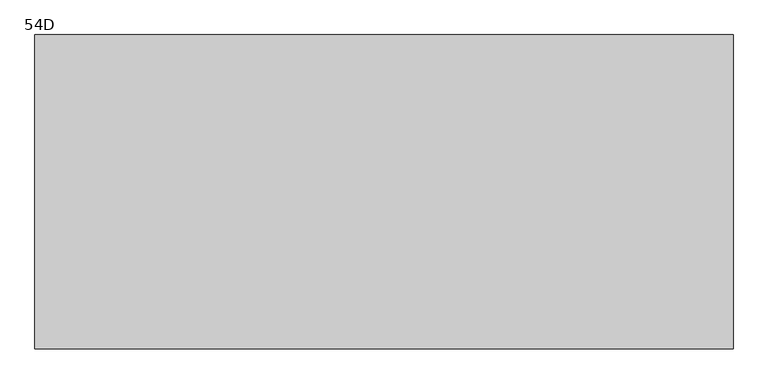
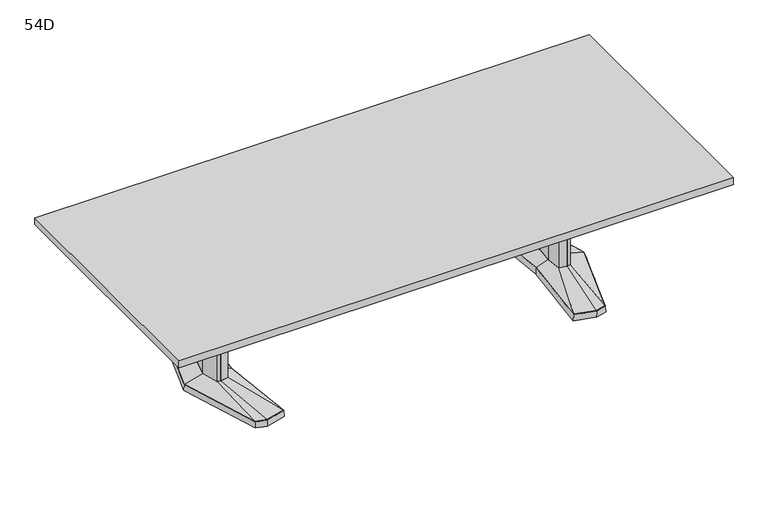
"""IFC4 building model written with IfcOpenShell, lengths in millimetres: furniture geometry, Coalesse_AM_Table_Conference_ETable2_Rectangular_10ft_AluminiumBase : 54D."""

import ifcopenshell
import ifcopenshell.guid

model = None  # the IFC model being written
_history = None  # IfcOwnerHistory: only IFC2X3 demands one
_inside = {}  # id of a spatial element -> (the spatial element, [elements in it])
_under = {}  # id of a project, library or spatial element -> (it, [spatial elements below it])
_declared = {}  # id of a project -> (the project, [libraries it declares])
_typed = {}  # id of a type object -> (the type object, [elements of that type])
_made_of = {}  # id of a material, layer set ... -> (it, [elements and type objects made of it])


def new_model(schema):
    """Start an empty IFC model of exactly this schema.

    Asked for "IFC4X3", IfcOpenShell would pick the latest addendum, in which some entities
    have other attributes; the version numbers below select the first issue.
    IFC2X3 requires an IfcOwnerHistory on every rooted entity: one is made here for all.
    """
    global model, _history
    if schema == "IFC4X3":
        model = ifcopenshell.file(schema_version=(4, 3, 0, 0))
    else:
        model = ifcopenshell.file(schema=schema)
    _inside.clear()
    _under.clear()
    _declared.clear()
    _typed.clear()
    _made_of.clear()
    _history = None
    if model.schema == "IFC2X3":
        org = make("IfcOrganization", Name="unknown")
        user = make(
            "IfcPersonAndOrganization",
            ThePerson=make("IfcPerson", FamilyName="unknown"),
            TheOrganization=org,
        )
        app = make(
            "IfcApplication",
            ApplicationDeveloper=org,
            Version="unknown",
            ApplicationFullName="unknown",
            ApplicationIdentifier="unknown",
        )
        _history = make(
            "IfcOwnerHistory",
            OwningUser=user,
            OwningApplication=app,
            ChangeAction="ADDED",
            CreationDate=0,
        )
    return model


def make(cls, **values):
    """One entity of the class cls with the attributes given. An attribute that is None is left unset."""
    return model.create_entity(
        cls, **{name: value for name, value in values.items() if value is not None}
    )


def rooted(cls, **values):
    """An entity with a GlobalId (a new one), such as an element, a storey or a relation."""
    return make(cls, GlobalId=ifcopenshell.guid.new(), OwnerHistory=_history, **values)


def si_unit(unit_type, name, prefix=None):
    """IfcSIUnit, for example si_unit("LENGTHUNIT", "METRE", prefix="MILLI")."""
    return make("IfcSIUnit", UnitType=unit_type, Prefix=prefix, Name=name)


def assignment(units):
    """IfcUnitAssignment: the units of a project."""
    return None if units is None else make("IfcUnitAssignment", Units=units)


def point(xyz):
    """IfcCartesianPoint."""
    return None if xyz is None else make("IfcCartesianPoint", Coordinates=xyz)


def direction(xyz):
    """IfcDirection."""
    return None if xyz is None else make("IfcDirection", DirectionRatios=xyz)


def frame(location, z_axis=None, x_axis=None):
    """IfcAxis2Placement3D, a coordinate frame: its origin and axes. An axis left out is left unset."""
    return make(
        "IfcAxis2Placement3D",
        Location=point(location),
        Axis=direction(z_axis),
        RefDirection=direction(x_axis),
    )


def origin():
    """The frame at (0, 0, 0) with its axes left unset."""
    return frame((0.0, 0.0, 0.0))


def place(relative_to, where):
    """IfcLocalPlacement: puts the frame where relative to a parent placement (None: the world)."""
    return make(
        "IfcLocalPlacement", PlacementRelTo=relative_to, RelativePlacement=where
    )


def context(
    kind, dimensions, precision=None, world=None, true_north=None, identifier=None
):
    """IfcGeometricRepresentationContext, for example the 3D "Model" context."""
    return make(
        "IfcGeometricRepresentationContext",
        ContextIdentifier=identifier,
        ContextType=kind,
        CoordinateSpaceDimension=dimensions,
        Precision=precision,
        WorldCoordinateSystem=world,
        TrueNorth=true_north,
    )


def project(units=None, contexts=None):
    """IfcProject with its units and contexts."""
    return rooted(
        "IfcProject",
        Name="project",
        RepresentationContexts=contexts,
        UnitsInContext=assignment(units),
    )


def spatial(cls, under=None, at=None, **own):
    """A site, building, storey or space (cls), placed at a placement, below another one or the project."""
    s = rooted(cls, ObjectPlacement=at, **own)
    if under is not None:
        _under.setdefault(under.id(), (under, []))[1].append(s)
    return s


def polyline(points):
    """IfcPolyline through the points."""
    return make("IfcPolyline", Points=[point(p) for p in points])


def outline(outer, holes=None, kind="AREA"):
    """IfcArbitraryClosedProfileDef: a profile drawn as a closed curve; with holes, ...WithVoids."""
    if holes is None:
        return make("IfcArbitraryClosedProfileDef", ProfileType=kind, OuterCurve=outer)
    return make(
        "IfcArbitraryProfileDefWithVoids",
        ProfileType=kind,
        OuterCurve=outer,
        InnerCurves=holes,
    )


def extrude(swept, where, along, depth):
    """IfcExtrudedAreaSolid: the profile swept, set in the frame where, extruded along a direction by depth."""
    return make(
        "IfcExtrudedAreaSolid",
        SweptArea=swept,
        Position=where,
        ExtrudedDirection=direction(along),
        Depth=depth,
    )


def faces_of(points, faces, orient=None, outer=None):
    """IfcFace entities. A face is a list of loops; a loop is a list of indices into points, from 0.

    orient and outer hold one flag for each loop. By default every Orientation is true, the
    first loop of a face is its IfcFaceOuterBound and the others are IfcFaceBound.
    """
    made = []
    for i, loops in enumerate(faces):
        bounds = []
        for j, loop in enumerate(loops):
            is_outer = j == 0 if outer is None else outer[i][j]
            bounds.append(
                make(
                    "IfcFaceOuterBound" if is_outer else "IfcFaceBound",
                    Bound=make("IfcPolyLoop", Polygon=[points[k] for k in loop]),
                    Orientation=True if orient is None else orient[i][j],
                )
            )
        made.append(make("IfcFace", Bounds=bounds))
    return made


def faceted_brep(points, faces, orient=None, outer=None, voids=None):
    """IfcFacetedBrep: a solid bounded by flat faces; with voids (closed shells), ...WithVoids."""
    shared = [point(p) for p in points]
    hull = make("IfcClosedShell", CfsFaces=faces_of(shared, faces, orient, outer))
    if voids is None:
        return make("IfcFacetedBrep", Outer=hull)
    return make(
        "IfcFacetedBrepWithVoids",
        Outer=hull,
        Voids=[
            make(cls, CfsFaces=faces_of(shared, fs, o, b)) for cls, fs, o, b in voids
        ],
    )


def shape(context_of_items, identifier, shape_type, items):
    """IfcShapeRepresentation: the items that make up one representation, for example the "Body"."""
    return make(
        "IfcShapeRepresentation",
        ContextOfItems=context_of_items,
        RepresentationIdentifier=identifier,
        RepresentationType=shape_type,
        Items=items,
    )


def source(mapping_origin, context_of_items, identifier, shape_type, items):
    """IfcRepresentationMap: a shape defined once, which mapped items show again and again."""
    return make(
        "IfcRepresentationMap",
        MappingOrigin=mapping_origin,
        MappedRepresentation=shape(context_of_items, identifier, shape_type, items),
    )


def transform(
    local_origin,
    x_axis=None,
    y_axis=None,
    z_axis=None,
    scale=None,
    scale2=None,
    scale3=None,
    uniform=True,
):
    """IfcCartesianTransformationOperator3D, or its non-uniform kind. x_axis, y_axis, z_axis: its Axis1, 2, 3."""
    if uniform:
        return make(
            "IfcCartesianTransformationOperator3D",
            Axis1=direction(x_axis),
            Axis2=direction(y_axis),
            LocalOrigin=point(local_origin),
            Scale=scale,
            Axis3=direction(z_axis),
        )
    return make(
        "IfcCartesianTransformationOperator3DnonUniform",
        Axis1=direction(x_axis),
        Axis2=direction(y_axis),
        LocalOrigin=point(local_origin),
        Scale=scale,
        Axis3=direction(z_axis),
        Scale2=scale2,
        Scale3=scale3,
    )


def mapped(mapping_source, mapping_target):
    """IfcMappedItem: shows the shape of a source again, moved by a transform."""
    return make(
        "IfcMappedItem", MappingSource=mapping_source, MappingTarget=mapping_target
    )


def made_of(thing, what):
    """Note that an element or type object is made of a material, layer set ...; save() writes the relation."""
    if what is not None:
        _made_of.setdefault(what.id(), (what, []))[1].append(thing)
    return thing


def element(
    cls,
    number,
    at=None,
    inside=None,
    cuts=None,
    type_object=None,
    material=None,
    context=None,
    identifier="Body",
    shape_type=None,
    held_by="IfcProductDefinitionShape",
    body=None,
    shapes=None,
    **own,
):
    """One element of the class cls, such as IfcWall. Its Tag is "e" and its number.

    at: its placement. inside: the storey or other place that contains it. cuts: it is an
    opening in that element (IfcRelVoidsElement). A single representation is given by context,
    identifier, shape_type and body (its items); several are given by shapes. held_by: the class
    of the entity that holds the representations. save() writes the other relations.
    """
    e = rooted(cls, Tag="e%d" % number, ObjectPlacement=at, **own)
    if body is not None:
        shapes = [shape(context, identifier, shape_type, body)]
    if shapes is not None:
        e.Representation = make(held_by, Representations=shapes)
    if inside is not None:
        _inside.setdefault(inside.id(), (inside, []))[1].append(e)
    if cuts is not None:
        rooted(
            "IfcRelVoidsElement", RelatingBuildingElement=cuts, RelatedOpeningElement=e
        )
    if type_object is not None:
        _typed.setdefault(type_object.id(), (type_object, []))[1].append(e)
    return made_of(e, material)


def aggregate(whole, parts):
    """IfcRelAggregates: a whole, such as a stair, and the parts it consists of."""
    return rooted("IfcRelAggregates", RelatingObject=whole, RelatedObjects=parts)


def save(model, path):
    """Write the relations noted so far, then the file.

    IfcRelAggregates (storeys below a building ...), IfcRelContainedInSpatialStructure (elements
    in a storey), IfcRelDefinesByType, IfcRelAssociatesMaterial and IfcRelDeclares: one each for
    every whole, place, type object, material and project.
    """
    for whole, parts in _under.values():
        aggregate(whole, parts)
    for where, things in _inside.values():
        rooted(
            "IfcRelContainedInSpatialStructure",
            RelatedElements=things,
            RelatingStructure=where,
        )
    for kind, things in _typed.values():
        rooted("IfcRelDefinesByType", RelatedObjects=things, RelatingType=kind)
    for what, things in _made_of.values():
        rooted("IfcRelAssociatesMaterial", RelatedObjects=things, RelatingMaterial=what)
    for by, libraries in _declared.values():
        rooted("IfcRelDeclares", RelatingContext=by, RelatedDefinitions=libraries)
    model.write(path)


def plane_surface(at):
    """IfcPlane: the flat surface through the origin of the frame at, square to its z axis."""
    return make("IfcPlane", Position=at)


def spline_surface(u_degree, v_degree, points, u_multiplicities, v_multiplicities, u_knots, v_knots, weights=None):
    """IfcBSplineSurfaceWithKnots; with weights, IfcRationalBSplineSurfaceWithKnots. points: one row for each step in u."""
    own = dict(
        UDegree=u_degree,
        VDegree=v_degree,
        ControlPointsList=[[point(p) for p in row] for row in points],
        SurfaceForm="UNSPECIFIED",
        UClosed=False,
        VClosed=False,
        SelfIntersect=False,
        UMultiplicities=u_multiplicities,
        VMultiplicities=v_multiplicities,
        UKnots=u_knots,
        VKnots=v_knots,
        KnotSpec="UNSPECIFIED",
    )
    if weights is None:
        return make("IfcBSplineSurfaceWithKnots", **own)
    return make("IfcRationalBSplineSurfaceWithKnots", WeightsData=weights, **own)


def advanced_brep(points, edges, surfaces, faces):
    """IfcAdvancedBrep: a solid bounded by faces that lie on surfaces and meet in shared edges.

    An edge is (start, end): straight between two places in points (the first is 0);
    or (start, end, curve); or (start, end, curve, False) where it runs against its curve.
    A face is (place in surfaces, loops), or (place, loops, False) where it looks against
    its surface's normal. A loop lists edges by number (the first is 1), with a minus sign
    where the edge is run from its end to its start. The first loop is the outer one.
    """
    corners = [point(p) for p in points]
    vertices = [make("IfcVertexPoint", VertexGeometry=c) for c in corners]
    made = []
    for start, end, *more in edges:
        made.append(
            make(
                "IfcEdgeCurve",
                EdgeStart=vertices[start],
                EdgeEnd=vertices[end],
                EdgeGeometry=more[0] if more else make("IfcPolyline", Points=[corners[start], corners[end]]),
                SameSense=more[1] if len(more) > 1 else True,
            )
        )
    hull = []
    for where, loops, *sense in faces:
        bounds = []
        for j, loop in enumerate(loops):
            ring = [make("IfcOrientedEdge", EdgeElement=made[abs(k) - 1], Orientation=k > 0) for k in loop]
            bounds.append(
                make(
                    "IfcFaceOuterBound" if j == 0 else "IfcFaceBound",
                    Bound=make("IfcEdgeLoop", EdgeList=ring),
                    Orientation=True,
                )
            )
        hull.append(make("IfcAdvancedFace", Bounds=bounds, FaceSurface=surfaces[where], SameSense=sense[0] if sense else True))
    return make("IfcAdvancedBrep", Outer=make("IfcClosedShell", CfsFaces=hull))


def furniture_54d_f35fd908(model_context):
    return source(origin(), model_context, "Body", "SolidModel", [
        faceted_brep([(905.8306835, 455.5848221, 38.1), (796.2531277, 426.2263816, 38.1), (837.4163717, 0.0, 38.1), (796.2531277, -426.2263816, 38.1), (905.8306835, -455.5848221, 38.1), (961.9570396, -440.5478297, 38.1), (1099.2684269, 0.0, 38.1), (961.9570396, 440.5478297, 38.1), (905.8306754, 457.2283104, 3.175), (963.2124472, 441.8549756, 3.175), (1100.93125, 0.0, 3.175), (963.2124472, -441.8549756, 3.175), (905.8306754, -457.2283104, 3.175), (794.54375, -427.4118891, 3.175), (835.8214856, 0.0, 3.175), (794.54375, 427.4118891, 3.175), (909.420115, 428.3273875, 3.175), (804.3718228, 402.1057253, 3.175), (812.490518, 377.985069, 3.175), (913.0095466, 401.0699529, 3.175), (963.5691725, 387.524361, 3.175), (962.7631061, 414.0360954, 3.175), (909.420115, -428.3273875, 3.175), (962.7631061, -414.0360954, 3.175), (963.5691725, -387.524361, 3.175), (913.0095466, -401.0699529, 3.175), (812.490518, -377.985069, 3.175), (804.3718228, -402.1057253, 3.175), (1036.0153621, 0.0, 3.175), (1003.7459611, 120.4193755, 3.175), (955.0987222, 133.471665, 3.175), (875.2180526, 119.4176561, 3.175), (864.0868466, 0.0, 3.175), (875.2180526, -119.4176561, 3.175), (955.0987222, -133.471665, 3.175), (1003.7459611, -120.4193755, 3.175), (909.420115, 428.3273875, 0.0), (962.7631061, 414.0360954, 0.0), (963.5691725, 387.524361, 0.0), (913.0095466, 401.0699529, 0.0), (812.490518, 377.985069, 0.0), (804.3718228, 402.1057253, 0.0), (909.420115, -428.3273875, 0.0), (804.3718228, -402.1057253, 0.0), (812.490518, -377.985069, 0.0), (913.0095466, -401.0699529, 0.0), (963.5691725, -387.524361, 0.0), (962.7631061, -414.0360954, 0.0), (1036.0153621, 0.0, 0.0), (1003.7459611, -120.4193755, 0.0), (955.0987222, -133.471665, 0.0), (875.2180526, -119.4176561, 0.0), (864.0868466, 0.0, 0.0), (875.2180526, 119.4176561, 0.0), (955.0987222, 133.471665, 0.0), (1003.7459611, 120.4193755, 0.0)], [[[0, 1, 2, 3, 4, 5, 6, 7]], [[8, 9, 10, 11, 12, 13, 14, 15], [16, 17, 18, 19, 20, 21], [22, 23, 24, 25, 26, 27], [28, 29, 30, 31, 32, 33, 34, 35]], [[7, 9, 8, 0]], [[6, 10, 9, 7]], [[5, 11, 10, 6]], [[4, 12, 11, 5]], [[3, 13, 12, 4]], [[2, 14, 13, 3]], [[1, 15, 14, 2]], [[0, 8, 15, 1]], [[36, 37, 38, 39, 40, 41]], [[42, 43, 44, 45, 46, 47]], [[48, 49, 50, 51, 52, 53, 54, 55]], [[36, 16, 21, 37]], [[37, 21, 20, 38]], [[38, 20, 19, 39]], [[39, 19, 18, 40]], [[40, 18, 17, 41]], [[41, 17, 16, 36]], [[42, 22, 27, 43]], [[43, 27, 26, 44]], [[44, 26, 25, 45]], [[45, 25, 24, 46]], [[46, 24, 23, 47]], [[47, 23, 22, 42]], [[48, 28, 35, 49]], [[49, 35, 34, 50]], [[50, 34, 33, 51]], [[51, 33, 32, 52]], [[52, 32, 31, 53]], [[53, 31, 30, 54]], [[54, 30, 29, 55]], [[55, 29, 28, 48]]]),
        faceted_brep([(996.5710836, 0.0, 698.5), (972.6358546, 89.3188359, 698.5), (955.7824984, 93.8406728, 698.5), (953.3826511, 94.4845635, 698.5), (910.455146, 86.9320037, 698.5), (902.3520056, 0.0, 698.5), (910.455146, -86.9320037, 698.5), (953.3826511, -94.4845635, 698.5), (955.7824984, -93.8406728, 698.5), (972.6358546, -89.3188359, 698.5), (996.5710836, 0.0, 63.5), (972.6358546, -89.3188359, 63.5), (955.7824984, -93.8406728, 63.5), (953.3826511, -94.4845635, 63.5), (910.455146, -86.9320037, 63.5), (902.3520056, 0.0, 63.5), (910.455146, 86.9320037, 63.5), (953.3826511, 94.4845635, 63.5), (955.7824984, 93.8406728, 63.5), (972.6358546, 89.3188359, 63.5)], [[[0, 1, 2, 3, 4, 5, 6, 7, 8, 9]], [[10, 11, 12, 13, 14, 15, 16, 17, 18, 19]], [[9, 11, 10, 0]], [[8, 12, 11, 9]], [[7, 13, 12, 8]], [[6, 14, 13, 7]], [[5, 15, 14, 6]], [[4, 16, 15, 5]], [[3, 17, 16, 4]], [[2, 18, 17, 3]], [[1, 19, 18, 2]], [[0, 10, 19, 1]]]),
        advanced_brep(
        [(953.3826511, 94.4845635, 63.5), (910.455146, 86.9320037, 63.5), (902.3520056, 0.0, 63.5), (910.455146, -86.9320037, 63.5), (953.3826511, -94.4845635, 63.5), (972.6358546, -89.3188359, 63.5), (996.5710836, 0.0, 63.5), (972.6358546, 89.3188359, 63.5), (905.8306835, 455.5848221, 38.1), (961.9570396, 440.5478297, 38.1), (1099.2684269, 0.0, 38.1), (961.9570396, -440.5478297, 38.1), (905.8306835, -455.5848221, 38.1), (796.2531277, -426.2263816, 38.1), (837.4163717, 0.0, 38.1), (796.2531277, 426.2263816, 38.1)],
        [
            (0, 1),
            (1, 2),
            (2, 3),
            (3, 4),
            (4, 5),
            (5, 6),
            (6, 7),
            (7, 0),
            (8, 9),
            (9, 10),
            (10, 11),
            (11, 12),
            (12, 13),
            (13, 14),
            (14, 15),
            (15, 8),
            (8, 0),
            (7, 9),
            (6, 10),
            (5, 11),
            (4, 12),
            (3, 13),
            (2, 14),
            (1, 15),
        ],
        [
            plane_surface(frame((946.4837991, 0.0, 63.5), z_axis=(0.0, 0.0, 1.0), x_axis=(-0.25884244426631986, -0.9659195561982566, 0.0))),
            plane_surface(frame((908.0958125, 0.0, 38.1), z_axis=(0.0, 0.0, -1.0), x_axis=(-0.25884244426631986, -0.9659195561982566, 0.0))),
            spline_surface(1, 1, [[(905.8306835, 455.5848221, 38.1), (961.9570396, 440.5478297, 38.1)], [(953.3826511, 94.4845635, 63.5), (972.6358546, 89.3188359, 63.5)]], [2, 2], [2, 2], [0.0, 1.0], [0.0, 1.0]),
            spline_surface(1, 1, [[(961.9570396, 440.5478297, 38.1), (1099.2684269, 0.0, 38.1)], [(972.6358546, 89.3188359, 63.5), (996.5710836, 0.0, 63.5)]], [2, 2], [2, 2], [0.0, 1.0], [0.0, 1.0]),
            spline_surface(1, 1, [[(1099.2684269, 0.0, 38.1), (961.9570396, -440.5478297, 38.1)], [(996.5710836, 0.0, 63.5), (972.6358546, -89.3188359, 63.5)]], [2, 2], [2, 2], [0.0, 1.0], [0.0, 1.0]),
            spline_surface(1, 1, [[(961.9570396, -440.5478297, 38.1), (905.8306835, -455.5848221, 38.1)], [(972.6358546, -89.3188359, 63.5), (953.3826511, -94.4845635, 63.5)]], [2, 2], [2, 2], [0.0, 1.0], [0.0, 1.0]),
            spline_surface(1, 1, [[(905.8306835, -455.5848221, 38.1), (796.2531277, -426.2263816, 38.1)], [(953.3826511, -94.4845635, 63.5), (910.455146, -86.9320037, 63.5)]], [2, 2], [2, 2], [0.0, 1.0], [0.0, 1.0]),
            spline_surface(1, 1, [[(796.2531277, -426.2263816, 38.1), (837.4163717, 0.0, 38.1)], [(910.455146, -86.9320037, 63.5), (902.3520056, 0.0, 63.5)]], [2, 2], [2, 2], [0.0, 1.0], [0.0, 1.0]),
            spline_surface(1, 1, [[(837.4163717, 0.0, 38.1), (796.2531277, 426.2263816, 38.1)], [(902.3520056, 0.0, 63.5), (910.455146, 86.9320037, 63.5)]], [2, 2], [2, 2], [0.0, 1.0], [0.0, 1.0]),
            spline_surface(1, 1, [[(796.2531277, 426.2263816, 38.1), (905.8306835, 455.5848221, 38.1)], [(910.455146, 86.9320037, 63.5), (953.3826511, 94.4845635, 63.5)]], [2, 2], [2, 2], [0.0, 1.0], [0.0, 1.0]),
        ],
        [
            (0, [[1, 2, 3, 4, 5, 6, 7, 8]]),
            (1, [[9, 10, 11, 12, 13, 14, 15, 16]]),
            (2, [[17, -8, 18, -9]]),
            (3, [[-18, -7, 19, -10]]),
            (4, [[-19, -6, 20, -11]]),
            (5, [[-20, -5, 21, -12]]),
            (6, [[-21, -4, 22, -13]]),
            (7, [[-22, -3, 23, -14]]),
            (8, [[-23, -2, 24, -15]]),
            (9, [[-24, -1, -17, -16]]),
        ],
    ),
        faceted_brep([(-905.8306835, 455.5848221, 38.1), (-961.9570396, 440.5478297, 38.1), (-1099.2684269, 0.0, 38.1), (-961.9570396, -440.5478297, 38.1), (-905.8306835, -455.5848221, 38.1), (-796.2531277, -426.2263816, 38.1), (-837.4163717, 0.0, 38.1), (-796.2531277, 426.2263816, 38.1), (-905.8306754, 457.2283104, 3.175), (-794.54375, 427.4118891, 3.175), (-835.8214856, 0.0, 3.175), (-794.54375, -427.4118891, 3.175), (-905.8306754, -457.2283104, 3.175), (-963.2124472, -441.8549756, 3.175), (-1100.93125, 0.0, 3.175), (-963.2124472, 441.8549756, 3.175), (-909.420115, 428.3273875, 3.175), (-962.7631061, 414.0360954, 3.175), (-963.5691725, 387.524361, 3.175), (-913.0095466, 401.0699529, 3.175), (-812.490518, 377.985069, 3.175), (-804.3718228, 402.1057253, 3.175), (-909.420115, -428.3273875, 3.175), (-804.3718228, -402.1057253, 3.175), (-812.490518, -377.985069, 3.175), (-913.0095466, -401.0699529, 3.175), (-963.5691725, -387.524361, 3.175), (-962.7631061, -414.0360954, 3.175), (-1036.0153621, 0.0, 3.175), (-1003.7459611, -120.4193755, 3.175), (-955.0987222, -133.471665, 3.175), (-875.2180526, -119.4176561, 3.175), (-864.0868466, 0.0, 3.175), (-875.2180526, 119.4176561, 3.175), (-955.0987222, 133.471665, 3.175), (-1003.7459611, 120.4193755, 3.175), (-909.420115, 428.3273875, 0.0), (-804.3718228, 402.1057253, 0.0), (-812.490518, 377.985069, 0.0), (-913.0095466, 401.0699529, 0.0), (-963.5691725, 387.524361, 0.0), (-962.7631061, 414.0360954, 0.0), (-909.420115, -428.3273875, 0.0), (-962.7631061, -414.0360954, 0.0), (-963.5691725, -387.524361, 0.0), (-913.0095466, -401.0699529, 0.0), (-812.490518, -377.985069, 0.0), (-804.3718228, -402.1057253, 0.0), (-1036.0153621, 0.0, 0.0), (-1003.7459611, 120.4193755, 0.0), (-955.0987222, 133.471665, 0.0), (-875.2180526, 119.4176561, 0.0), (-864.0868466, 0.0, 0.0), (-875.2180526, -119.4176561, 0.0), (-955.0987222, -133.471665, 0.0), (-1003.7459611, -120.4193755, 0.0)], [[[0, 1, 2, 3, 4, 5, 6, 7]], [[8, 9, 10, 11, 12, 13, 14, 15], [16, 17, 18, 19, 20, 21], [22, 23, 24, 25, 26, 27], [28, 29, 30, 31, 32, 33, 34, 35]], [[1, 0, 8, 15]], [[2, 1, 15, 14]], [[3, 2, 14, 13]], [[4, 3, 13, 12]], [[5, 4, 12, 11]], [[6, 5, 11, 10]], [[7, 6, 10, 9]], [[0, 7, 9, 8]], [[36, 37, 38, 39, 40, 41]], [[42, 43, 44, 45, 46, 47]], [[48, 49, 50, 51, 52, 53, 54, 55]], [[36, 41, 17, 16]], [[41, 40, 18, 17]], [[40, 39, 19, 18]], [[39, 38, 20, 19]], [[38, 37, 21, 20]], [[37, 36, 16, 21]], [[42, 47, 23, 22]], [[47, 46, 24, 23]], [[46, 45, 25, 24]], [[45, 44, 26, 25]], [[44, 43, 27, 26]], [[43, 42, 22, 27]], [[48, 55, 29, 28]], [[55, 54, 30, 29]], [[54, 53, 31, 30]], [[53, 52, 32, 31]], [[52, 51, 33, 32]], [[51, 50, 34, 33]], [[50, 49, 35, 34]], [[49, 48, 28, 35]]]),
        faceted_brep([(-996.5710836, 0.0, 698.5), (-972.6358546, -89.3188359, 698.5), (-955.7824984, -93.8406728, 698.5), (-953.3826511, -94.4845635, 698.5), (-910.455146, -86.9320037, 698.5), (-902.3520056, 0.0, 698.5), (-910.455146, 86.9320037, 698.5), (-953.3826511, 94.4845635, 698.5), (-955.7824984, 93.8406728, 698.5), (-972.6358546, 89.3188359, 698.5), (-996.5710836, 0.0, 63.5), (-972.6358546, 89.3188359, 63.5), (-955.7824984, 93.8406728, 63.5), (-953.3826511, 94.4845635, 63.5), (-910.455146, 86.9320037, 63.5), (-902.3520056, 0.0, 63.5), (-910.455146, -86.9320037, 63.5), (-953.3826511, -94.4845635, 63.5), (-955.7824984, -93.8406728, 63.5), (-972.6358546, -89.3188359, 63.5)], [[[0, 1, 2, 3, 4, 5, 6, 7, 8, 9]], [[10, 11, 12, 13, 14, 15, 16, 17, 18, 19]], [[1, 0, 10, 19]], [[2, 1, 19, 18]], [[3, 2, 18, 17]], [[4, 3, 17, 16]], [[5, 4, 16, 15]], [[6, 5, 15, 14]], [[7, 6, 14, 13]], [[8, 7, 13, 12]], [[9, 8, 12, 11]], [[0, 9, 11, 10]]]),
        advanced_brep(
        [(-953.3826511, 94.4845635, 63.5), (-972.6358546, 89.3188359, 63.5), (-996.5710836, 0.0, 63.5), (-972.6358546, -89.3188359, 63.5), (-953.3826511, -94.4845635, 63.5), (-910.455146, -86.9320037, 63.5), (-902.3520056, 0.0, 63.5), (-910.455146, 86.9320037, 63.5), (-905.8306835, 455.5848221, 38.1), (-796.2531277, 426.2263816, 38.1), (-837.4163717, 0.0, 38.1), (-796.2531277, -426.2263816, 38.1), (-905.8306835, -455.5848221, 38.1), (-961.9570396, -440.5478297, 38.1), (-1099.2684269, 0.0, 38.1), (-961.9570396, 440.5478297, 38.1)],
        [
            (0, 1),
            (1, 2),
            (2, 3),
            (3, 4),
            (4, 5),
            (5, 6),
            (6, 7),
            (7, 0),
            (8, 9),
            (9, 10),
            (10, 11),
            (11, 12),
            (12, 13),
            (13, 14),
            (14, 15),
            (15, 8),
            (15, 1),
            (0, 8),
            (14, 2),
            (13, 3),
            (12, 4),
            (11, 5),
            (10, 6),
            (9, 7),
        ],
        [
            plane_surface(frame((-946.4837991, 0.0, 63.5), z_axis=(0.0, 0.0, 1.0), x_axis=(0.25884244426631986, -0.9659195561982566, 0.0))),
            plane_surface(frame((-908.0958125, 0.0, 38.1), z_axis=(0.0, 0.0, -1.0), x_axis=(0.25884244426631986, -0.9659195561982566, 0.0))),
            spline_surface(1, 1, [[(-905.8306835, 455.5848221, 38.1), (-953.3826511, 94.4845635, 63.5)], [(-961.9570396, 440.5478297, 38.1), (-972.6358546, 89.3188359, 63.5)]], [2, 2], [2, 2], [0.0, 1.0], [0.0, 1.0]),
            spline_surface(1, 1, [[(-961.9570396, 440.5478297, 38.1), (-972.6358546, 89.3188359, 63.5)], [(-1099.2684269, 0.0, 38.1), (-996.5710836, 0.0, 63.5)]], [2, 2], [2, 2], [0.0, 1.0], [0.0, 1.0]),
            spline_surface(1, 1, [[(-1099.2684269, 0.0, 38.1), (-996.5710836, 0.0, 63.5)], [(-961.9570396, -440.5478297, 38.1), (-972.6358546, -89.3188359, 63.5)]], [2, 2], [2, 2], [0.0, 1.0], [0.0, 1.0]),
            spline_surface(1, 1, [[(-961.9570396, -440.5478297, 38.1), (-972.6358546, -89.3188359, 63.5)], [(-905.8306835, -455.5848221, 38.1), (-953.3826511, -94.4845635, 63.5)]], [2, 2], [2, 2], [0.0, 1.0], [0.0, 1.0]),
            spline_surface(1, 1, [[(-905.8306835, -455.5848221, 38.1), (-953.3826511, -94.4845635, 63.5)], [(-796.2531277, -426.2263816, 38.1), (-910.455146, -86.9320037, 63.5)]], [2, 2], [2, 2], [0.0, 1.0], [0.0, 1.0]),
            spline_surface(1, 1, [[(-796.2531277, -426.2263816, 38.1), (-910.455146, -86.9320037, 63.5)], [(-837.4163717, 0.0, 38.1), (-902.3520056, 0.0, 63.5)]], [2, 2], [2, 2], [0.0, 1.0], [0.0, 1.0]),
            spline_surface(1, 1, [[(-837.4163717, 0.0, 38.1), (-902.3520056, 0.0, 63.5)], [(-796.2531277, 426.2263816, 38.1), (-910.455146, 86.9320037, 63.5)]], [2, 2], [2, 2], [0.0, 1.0], [0.0, 1.0]),
            spline_surface(1, 1, [[(-796.2531277, 426.2263816, 38.1), (-910.455146, 86.9320037, 63.5)], [(-905.8306835, 455.5848221, 38.1), (-953.3826511, 94.4845635, 63.5)]], [2, 2], [2, 2], [0.0, 1.0], [0.0, 1.0]),
        ],
        [
            (0, [[1, 2, 3, 4, 5, 6, 7, 8]]),
            (1, [[9, 10, 11, 12, 13, 14, 15, 16]]),
            (2, [[-16, 17, -1, 18]]),
            (3, [[-15, 19, -2, -17]]),
            (4, [[-14, 20, -3, -19]]),
            (5, [[-13, 21, -4, -20]]),
            (6, [[-12, 22, -5, -21]]),
            (7, [[-11, 23, -6, -22]]),
            (8, [[-10, 24, -7, -23]]),
            (9, [[-9, -18, -8, -24]]),
        ],
    ),
        extrude(outline(polyline([(96.8375, 698.5), (103.1875, 698.5), (103.1875, 476.25), (-103.1875, 476.25), (-103.1875, 698.5), (-96.8375, 698.5), (-96.8375, 482.6), (96.8375, 482.6), (96.8375, 698.5)])), frame((-902.49375, 0.0, 0.0), z_axis=(1.0, 0.0, 0.0), x_axis=(0.0, 1.0, 0.0)), (0.0, 0.0, 1.0), 1804.9875),
        extrude(outline(polyline([(1524.0, 685.8), (1524.0, -685.8), (-1524.0, -685.8), (-1524.0, 685.8), (1524.0, 685.8)])), frame((0.0, 0.0, 698.5), z_axis=(0.0, 0.0, 1.0), x_axis=(1.0, 0.0, 0.0)), (0.0, 0.0, 1.0), 38.1),
    ])


if __name__ == "__main__":
    model = new_model("IFC4")
    model_context = context("Model", 3, world=origin())
    ifc_project = project(units=[si_unit("LENGTHUNIT", "METRE", prefix="MILLI")], contexts=[model_context])
    site = spatial("IfcSite", under=ifc_project)
    building = spatial("IfcBuilding", under=site)
    placement = place(None, origin())
    furniture_54d_shape = furniture_54d_f35fd908(model_context)
    element("IfcFurniture", 1, ObjectType="Coalesse_AM_Table_Conference_ETable2_Rectangular_10ft_AluminiumBase : 54D", at=placement, inside=building, context=model_context, shape_type="MappedRepresentation", body=[
        mapped(furniture_54d_shape, transform((0.0, 0.0, 0.0), x_axis=(1.0, 0.0, 0.0), y_axis=(0.0, 1.0, 0.0), z_axis=(0.0, 0.0, 1.0))),
    ])
    save(model, "model.ifc")
